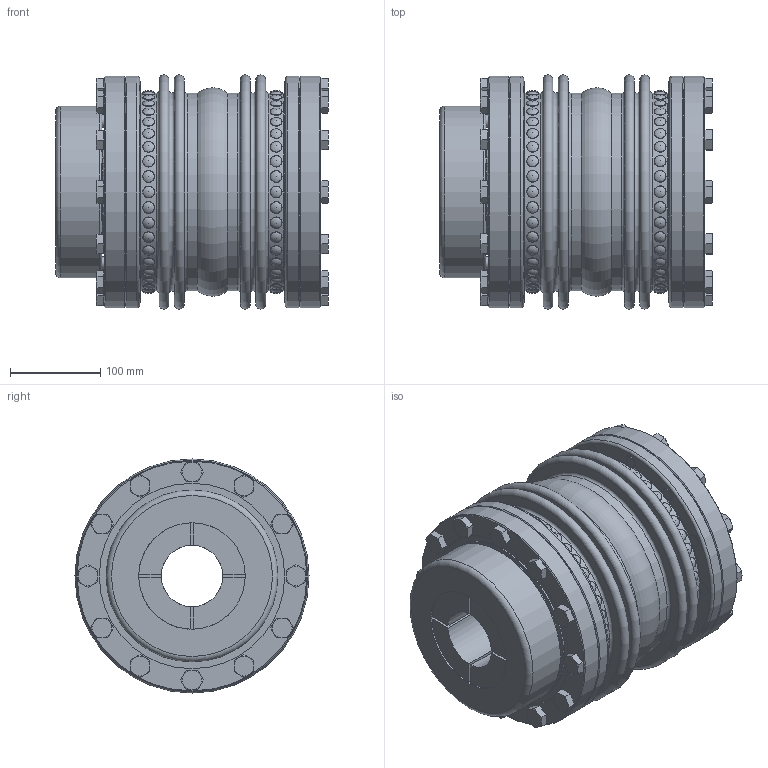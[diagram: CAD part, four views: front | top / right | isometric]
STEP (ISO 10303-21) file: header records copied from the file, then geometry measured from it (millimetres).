
FILE_DESCRIPTION(/* description */ ('Unknown'),/* implementation_level */ '2;1');
FILE_NAME(/* name */ 'KXL 9 A-B',/* time_stamp */ '2020-07-03T12:05:31+02:00',/* author */ ('Unknown'),/* organization */ ('Unknown'),/* preprocessor_version */ 'ST-DEVELOPER v16.7',/* originating_system */ 'DEX',/* authorisation */ $);
FILE_SCHEMA (('AUTOMOTIVE_DESIGN {1 0 10303 214 3 1 1}'));
Length unit declared in the file: millimetre
Products named in the file (1): KXL 9 A-B2
Bounding box: 301.75 x 258.9 x 258.9 mm (x, y, z)
Volume: 5651769.9 mm3; surface area: 1051389.5 mm2
Topology: 1 solids, 42 shells, 1533 faces, 3489 edges, 2295 vertices
Faces by surface type: plane 655, cone 308, cylinder 293, torus 277
Full cylindrical faces by diameter (mm): 6.4 x80, 11.835 x16, 12 x16, 14 x40, 15 x40, 20.5 x40, 68 x2, 190 x4, 193 x2, 201 x2, 205 x5, 213.7 x2, 214 x2, 216 x2, 218.5 x2, 218.8 x2, 256 x4
Entity records: 38592 total; most frequent: CARTESIAN_POINT 9284, DIRECTION 5914, ORIENTED_EDGE 4894, AXIS2_PLACEMENT_3D 2677, FACE_BOUND 2618, EDGE_LOOP 2522, EDGE_CURVE 2447, VERTEX_POINT 1951
